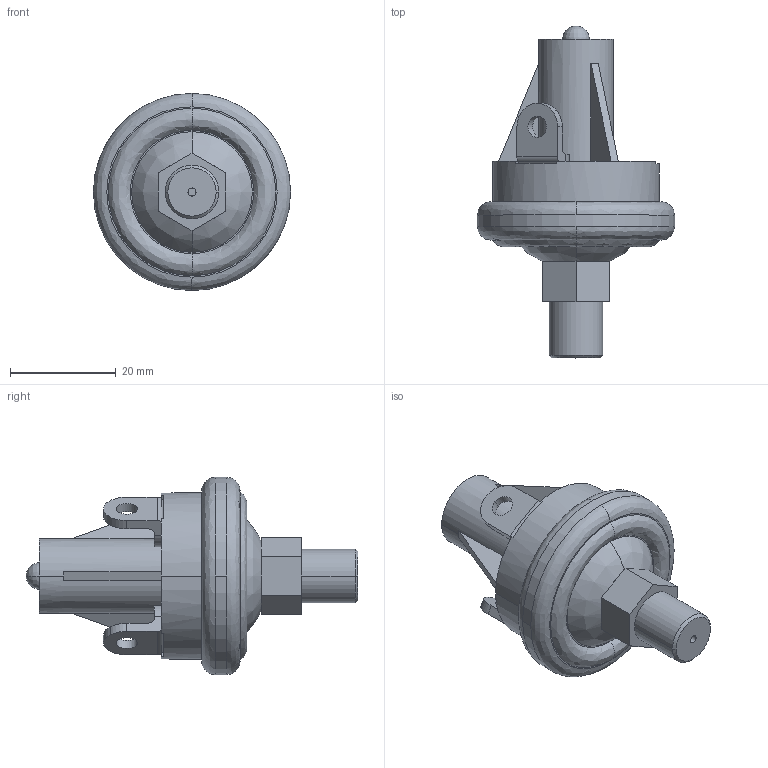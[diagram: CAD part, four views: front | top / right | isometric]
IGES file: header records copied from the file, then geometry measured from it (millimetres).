
Global section: file name: C:\Documents and Settings\Administrator\My Documents\PersonalProject\pressureswitch.igs; native system: AutoDesk Inventor R2.0 ; preprocessor: AutoDesk Inventor Iges Exporter R2.0; author: No Author specified; organization: No Organization specified; date: 20020115.191318; units: inch
Bounding box: 37.34 x 62.87 x 37.34 mm (x, y, z)
Surface area: 8165.8 mm2 (no closed solid volume)
Topology: 0 solids, 0 shells, 119 faces, 620 edges, 618 vertices
Faces by surface type: bspline 61, revolution 58
